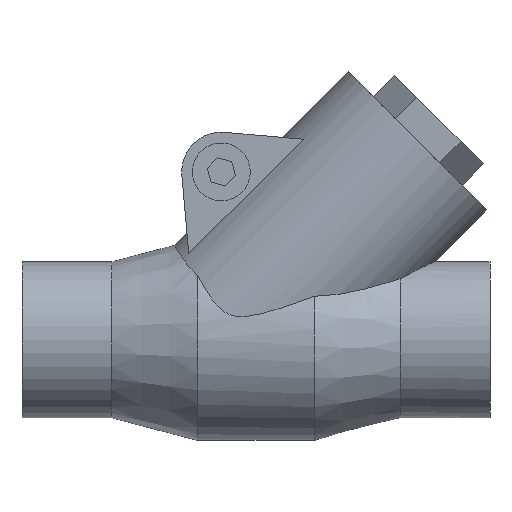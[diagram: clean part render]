
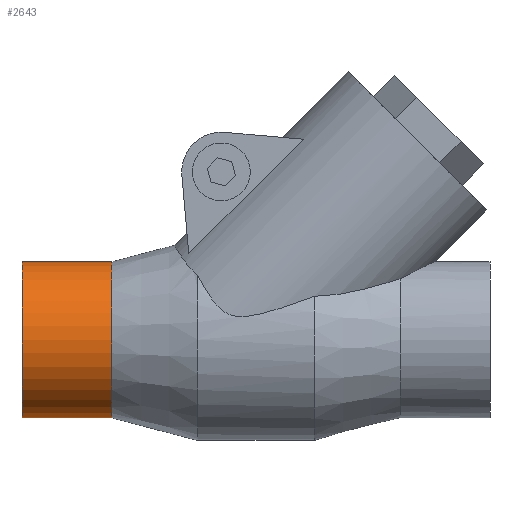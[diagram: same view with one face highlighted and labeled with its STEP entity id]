
A CAD part, front view. The second image highlights one B-rep face of the part: STEP entity #2643.
In plain terms, the highlighted cylindrical face has radius 0.787 mm (diameter 1.575 mm), a full revolution.
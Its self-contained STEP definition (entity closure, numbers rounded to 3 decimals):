
#274 = PLANE('',#275);
#275 = AXIS2_PLACEMENT_3D('',#276,#277,#278);
#276 = CARTESIAN_POINT('',(0.,0.,0.));
#277 = DIRECTION('',(-1.,0.,0.));
#278 = DIRECTION('',(0.,0.,1.));
#1086 = CONICAL_SURFACE('',#1087,0.901,0.257);
#1087 = AXIS2_PLACEMENT_3D('',#1088,#1089,#1090);
#1088 = CARTESIAN_POINT('',(1.34,0.,0.));
#1089 = DIRECTION('',(1.,0.,0.));
#1090 = DIRECTION('',(0.,0.,1.));
#2422 = EDGE_CURVE('',#2423,#2425,#2427,.T.);
#2423 = VERTEX_POINT('',#2424);
#2424 = CARTESIAN_POINT('',(0.908,0.,0.788));
#2425 = VERTEX_POINT('',#2426);
#2426 = CARTESIAN_POINT('',(0.908,-0.788,0.));
#2427 = SURFACE_CURVE('',#2428,(#2433,#2440),.PCURVE_S1.);
#2428 = CIRCLE('',#2429,0.788);
#2429 = AXIS2_PLACEMENT_3D('',#2430,#2431,#2432);
#2430 = CARTESIAN_POINT('',(0.908,0.,0.));
#2431 = DIRECTION('',(1.,0.,-0.));
#2432 = DIRECTION('',(0.,0.,1.));
#2433 = PCURVE('',#1086,#2434);
#2434 = DEFINITIONAL_REPRESENTATION('',(#2435),#2439);
#2435 = LINE('',#2436,#2437);
#2436 = CARTESIAN_POINT('',(0.,-0.433));
#2437 = VECTOR('',#2438,1.);
#2438 = DIRECTION('',(1.,0.));
#2439 = ( GEOMETRIC_REPRESENTATION_CONTEXT(2) 
PARAMETRIC_REPRESENTATION_CONTEXT() REPRESENTATION_CONTEXT('2D SPACE',''
  ) );
#2440 = PCURVE('',#2441,#2446);
#2441 = CYLINDRICAL_SURFACE('',#2442,0.788);
#2442 = AXIS2_PLACEMENT_3D('',#2443,#2444,#2445);
#2443 = CARTESIAN_POINT('',(0.,0.,0.));
#2444 = DIRECTION('',(1.,0.,0.));
#2445 = DIRECTION('',(0.,-1.,0.));
#2446 = DEFINITIONAL_REPRESENTATION('',(#2447),#2451);
#2447 = LINE('',#2448,#2449);
#2448 = CARTESIAN_POINT('',(4.712,0.908));
#2449 = VECTOR('',#2450,1.);
#2450 = DIRECTION('',(1.,0.));
#2451 = ( GEOMETRIC_REPRESENTATION_CONTEXT(2) 
PARAMETRIC_REPRESENTATION_CONTEXT() REPRESENTATION_CONTEXT('2D SPACE',''
  ) );
#2453 = EDGE_CURVE('',#2425,#2423,#2454,.T.);
#2454 = SURFACE_CURVE('',#2455,(#2460,#2467),.PCURVE_S1.);
#2455 = CIRCLE('',#2456,0.788);
#2456 = AXIS2_PLACEMENT_3D('',#2457,#2458,#2459);
#2457 = CARTESIAN_POINT('',(0.908,0.,0.));
#2458 = DIRECTION('',(1.,0.,-0.));
#2459 = DIRECTION('',(0.,0.,1.));
#2460 = PCURVE('',#1086,#2461);
#2461 = DEFINITIONAL_REPRESENTATION('',(#2462),#2466);
#2462 = LINE('',#2463,#2464);
#2463 = CARTESIAN_POINT('',(0.,-0.433));
#2464 = VECTOR('',#2465,1.);
#2465 = DIRECTION('',(1.,0.));
#2466 = ( GEOMETRIC_REPRESENTATION_CONTEXT(2) 
PARAMETRIC_REPRESENTATION_CONTEXT() REPRESENTATION_CONTEXT('2D SPACE',''
  ) );
#2467 = PCURVE('',#2441,#2468);
#2468 = DEFINITIONAL_REPRESENTATION('',(#2469),#2473);
#2469 = LINE('',#2470,#2471);
#2470 = CARTESIAN_POINT('',(-1.571,0.908));
#2471 = VECTOR('',#2472,1.);
#2472 = DIRECTION('',(1.,0.));
#2473 = ( GEOMETRIC_REPRESENTATION_CONTEXT(2) 
PARAMETRIC_REPRESENTATION_CONTEXT() REPRESENTATION_CONTEXT('2D SPACE',''
  ) );
#2643 = ADVANCED_FACE('',(#2644),#2441,.T.);
#2644 = FACE_BOUND('',#2645,.T.);
#2645 = EDGE_LOOP('',(#2646,#2670,#2690,#2691,#2692));
#2646 = ORIENTED_EDGE('',*,*,#2647,.F.);
#2647 = EDGE_CURVE('',#2648,#2648,#2650,.T.);
#2648 = VERTEX_POINT('',#2649);
#2649 = CARTESIAN_POINT('',(0.,-0.788,0.));
#2650 = SURFACE_CURVE('',#2651,(#2656,#2663),.PCURVE_S1.);
#2651 = CIRCLE('',#2652,0.788);
#2652 = AXIS2_PLACEMENT_3D('',#2653,#2654,#2655);
#2653 = CARTESIAN_POINT('',(0.,0.,0.));
#2654 = DIRECTION('',(-1.,0.,0.));
#2655 = DIRECTION('',(0.,-1.,0.));
#2656 = PCURVE('',#2441,#2657);
#2657 = DEFINITIONAL_REPRESENTATION('',(#2658),#2662);
#2658 = LINE('',#2659,#2660);
#2659 = CARTESIAN_POINT('',(6.283,0.));
#2660 = VECTOR('',#2661,1.);
#2661 = DIRECTION('',(-1.,0.));
#2662 = ( GEOMETRIC_REPRESENTATION_CONTEXT(2) 
PARAMETRIC_REPRESENTATION_CONTEXT() REPRESENTATION_CONTEXT('2D SPACE',''
  ) );
#2663 = PCURVE('',#274,#2664);
#2664 = DEFINITIONAL_REPRESENTATION('',(#2665),#2669);
#2665 = CIRCLE('',#2666,0.788);
#2666 = AXIS2_PLACEMENT_2D('',#2667,#2668);
#2667 = CARTESIAN_POINT('',(0.,0.));
#2668 = DIRECTION('',(0.,-1.));
#2669 = ( GEOMETRIC_REPRESENTATION_CONTEXT(2) 
PARAMETRIC_REPRESENTATION_CONTEXT() REPRESENTATION_CONTEXT('2D SPACE',''
  ) );
#2670 = ORIENTED_EDGE('',*,*,#2671,.T.);
#2671 = EDGE_CURVE('',#2648,#2425,#2672,.T.);
#2672 = SEAM_CURVE('',#2673,(#2676,#2683),.PCURVE_S1.);
#2673 = B_SPLINE_CURVE_WITH_KNOTS('',1,(#2674,#2675),.UNSPECIFIED.,.F.,
  .F.,(2,2),(0.,0.908),.PIECEWISE_BEZIER_KNOTS.);
#2674 = CARTESIAN_POINT('',(0.,-0.788,0.));
#2675 = CARTESIAN_POINT('',(0.908,-0.788,0.));
#2676 = PCURVE('',#2441,#2677);
#2677 = DEFINITIONAL_REPRESENTATION('',(#2678),#2682);
#2678 = LINE('',#2679,#2680);
#2679 = CARTESIAN_POINT('',(6.283,0.));
#2680 = VECTOR('',#2681,1.);
#2681 = DIRECTION('',(0.,1.));
#2682 = ( GEOMETRIC_REPRESENTATION_CONTEXT(2) 
PARAMETRIC_REPRESENTATION_CONTEXT() REPRESENTATION_CONTEXT('2D SPACE',''
  ) );
#2683 = PCURVE('',#2441,#2684);
#2684 = DEFINITIONAL_REPRESENTATION('',(#2685),#2689);
#2685 = LINE('',#2686,#2687);
#2686 = CARTESIAN_POINT('',(0.,0.));
#2687 = VECTOR('',#2688,1.);
#2688 = DIRECTION('',(0.,1.));
#2689 = ( GEOMETRIC_REPRESENTATION_CONTEXT(2) 
PARAMETRIC_REPRESENTATION_CONTEXT() REPRESENTATION_CONTEXT('2D SPACE',''
  ) );
#2690 = ORIENTED_EDGE('',*,*,#2422,.F.);
#2691 = ORIENTED_EDGE('',*,*,#2453,.F.);
#2692 = ORIENTED_EDGE('',*,*,#2671,.F.);
